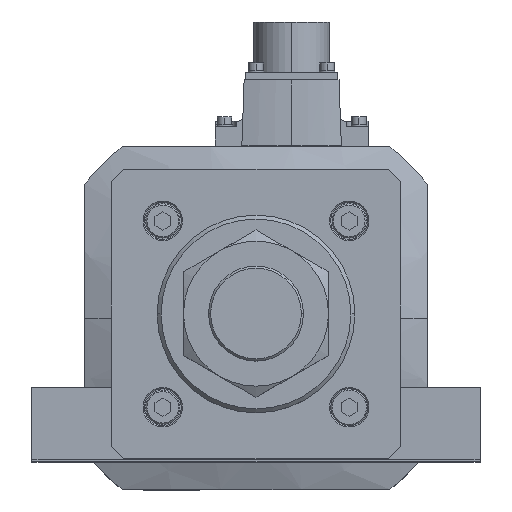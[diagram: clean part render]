
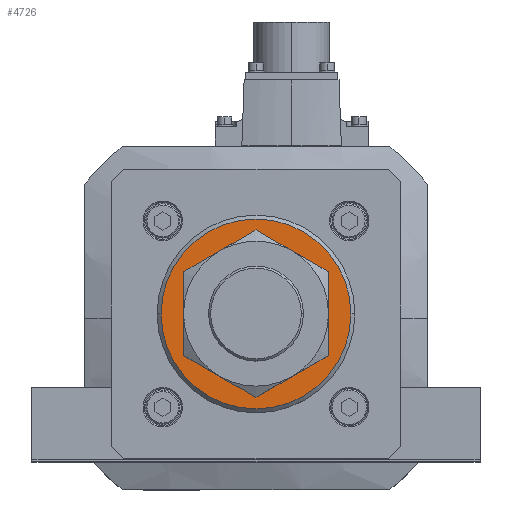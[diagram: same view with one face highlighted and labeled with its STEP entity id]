
A CAD part, top view. The second image highlights one B-rep face of the part: STEP entity #4726.
In plain terms, the highlighted planar face has unit normal (0, 0, 1).
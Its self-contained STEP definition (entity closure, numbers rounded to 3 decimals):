
#4271 = DIRECTION ( 'NONE',  ( 1., 0., 0. ) ) ;
#4583 = CARTESIAN_POINT ( 'NONE',  ( 0., 0., 646. ) ) ;
#4726 = ADVANCED_FACE ( 'NONE', ( #19305, #24349 ), #25057, .T. ) ;
#5497 = ORIENTED_EDGE ( 'NONE', *, *, #28431, .T. ) ;
#7714 = EDGE_CURVE ( 'NONE', #21799, #25554, #18197, .T. ) ;
#9403 = ORIENTED_EDGE ( 'NONE', *, *, #13677, .T. ) ;
#9752 = VERTEX_POINT ( 'NONE', #24454 ) ;
#9881 = CARTESIAN_POINT ( 'NONE',  ( 0., 0., 646. ) ) ;
#10551 = DIRECTION ( 'NONE',  ( 1., 0., 0. ) ) ;
#12611 = CARTESIAN_POINT ( 'NONE',  ( 0., 0., 646. ) ) ;
#12698 = DIRECTION ( 'NONE',  ( 0., 0., 1. ) ) ;
#13677 = EDGE_CURVE ( 'NONE', #9752, #27150, #21289, .T. ) ;
#14252 = AXIS2_PLACEMENT_3D ( 'NONE', #12611, #21280, #15378 ) ;
#15378 = DIRECTION ( 'NONE',  ( 1., 0., 0. ) ) ;
#15936 = DIRECTION ( 'NONE',  ( 1., 0., 0. ) ) ;
#16187 = CARTESIAN_POINT ( 'NONE',  ( 0., 0., 646. ) ) ;
#17156 = DIRECTION ( 'NONE',  ( 1., 0., 0. ) ) ;
#18197 = CIRCLE ( 'NONE', #14252, 23. ) ;
#18638 = EDGE_CURVE ( 'NONE', #27150, #9752, #27162, .T. ) ;
#18682 = AXIS2_PLACEMENT_3D ( 'NONE', #4583, #36363, #10551 ) ;
#19305 = FACE_BOUND ( 'NONE', #32811, .T. ) ;
#19980 = DIRECTION ( 'NONE',  ( 0., 0., -1. ) ) ;
#21280 = DIRECTION ( 'NONE',  ( 0., 0., -1. ) ) ;
#21289 = CIRCLE ( 'NONE', #33258, 36. ) ;
#21799 = VERTEX_POINT ( 'NONE', #25939 ) ;
#24349 = FACE_OUTER_BOUND ( 'NONE', #31443, .T. ) ;
#24454 = CARTESIAN_POINT ( 'NONE',  ( -36., 0., 646. ) ) ;
#24774 = AXIS2_PLACEMENT_3D ( 'NONE', #26215, #19980, #17156 ) ;
#25057 = PLANE ( 'NONE',  #30332 ) ;
#25554 = VERTEX_POINT ( 'NONE', #31034 ) ;
#25939 = CARTESIAN_POINT ( 'NONE',  ( -23., 0., 646. ) ) ;
#26215 = CARTESIAN_POINT ( 'NONE',  ( 0., 0., 646. ) ) ;
#27150 = VERTEX_POINT ( 'NONE', #30132 ) ;
#27162 = CIRCLE ( 'NONE', #18682, 36. ) ;
#28431 = EDGE_CURVE ( 'NONE', #25554, #21799, #37218, .T. ) ;
#30132 = CARTESIAN_POINT ( 'NONE',  ( 36., 0., 646. ) ) ;
#30332 = AXIS2_PLACEMENT_3D ( 'NONE', #16187, #36678, #15936 ) ;
#31034 = CARTESIAN_POINT ( 'NONE',  ( 23., 0., 646. ) ) ;
#31443 = EDGE_LOOP ( 'NONE', ( #9403, #31754 ) ) ;
#31589 = ORIENTED_EDGE ( 'NONE', *, *, #7714, .T. ) ;
#31754 = ORIENTED_EDGE ( 'NONE', *, *, #18638, .T. ) ;
#32811 = EDGE_LOOP ( 'NONE', ( #5497, #31589 ) ) ;
#33258 = AXIS2_PLACEMENT_3D ( 'NONE', #9881, #12698, #4271 ) ;
#36363 = DIRECTION ( 'NONE',  ( 0., 0., 1. ) ) ;
#36678 = DIRECTION ( 'NONE',  ( 0., 0., 1. ) ) ;
#37218 = CIRCLE ( 'NONE', #24774, 23. ) ;
